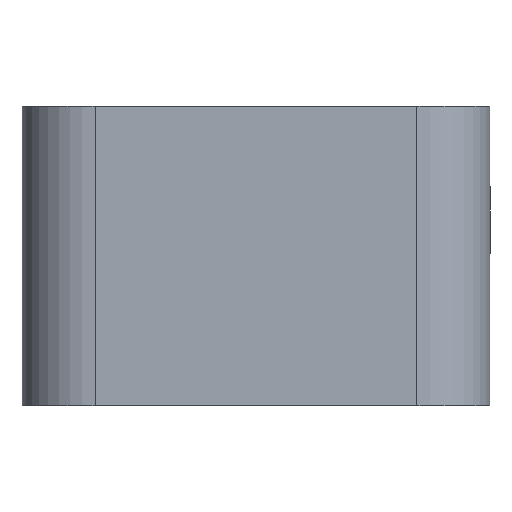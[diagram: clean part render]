
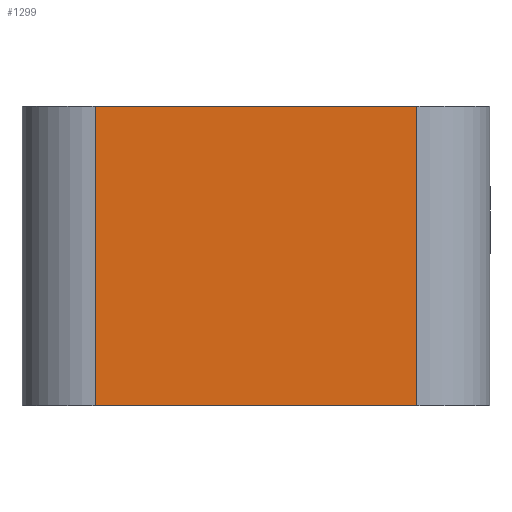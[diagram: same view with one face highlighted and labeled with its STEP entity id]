
A CAD part, front view. The second image highlights one B-rep face of the part: STEP entity #1299.
In plain terms, the highlighted planar face has unit normal (0, -1, 0).
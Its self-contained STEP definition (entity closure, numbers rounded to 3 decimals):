
#62 = CYLINDRICAL_SURFACE('',#63,5.);
#63 = AXIS2_PLACEMENT_3D('',#64,#65,#66);
#64 = CARTESIAN_POINT('',(-11.,-33.,-9.));
#65 = DIRECTION('',(0.,0.,-1.));
#66 = DIRECTION('',(-1.,0.,0.));
#90 = PLANE('',#91);
#91 = AXIS2_PLACEMENT_3D('',#92,#93,#94);
#92 = CARTESIAN_POINT('',(0.,0.,11.5));
#93 = DIRECTION('',(0.,0.,1.));
#94 = DIRECTION('',(1.,0.,-0.));
#144 = PLANE('',#145);
#145 = AXIS2_PLACEMENT_3D('',#146,#147,#148);
#146 = CARTESIAN_POINT('',(0.,0.,-9.));
#147 = DIRECTION('',(0.,0.,1.));
#148 = DIRECTION('',(1.,0.,-0.));
#159 = EDGE_CURVE('',#160,#162,#164,.T.);
#160 = VERTEX_POINT('',#161);
#161 = CARTESIAN_POINT('',(-11.,-38.,-9.));
#162 = VERTEX_POINT('',#163);
#163 = CARTESIAN_POINT('',(-11.,-38.,11.5));
#164 = SURFACE_CURVE('',#165,(#169,#176),.PCURVE_S1.);
#165 = LINE('',#166,#167);
#166 = CARTESIAN_POINT('',(-11.,-38.,-9.));
#167 = VECTOR('',#168,1.);
#168 = DIRECTION('',(0.,0.,1.));
#169 = PCURVE('',#62,#170);
#170 = DEFINITIONAL_REPRESENTATION('',(#171),#175);
#171 = LINE('',#172,#173);
#172 = CARTESIAN_POINT('',(4.712,0.));
#173 = VECTOR('',#174,1.);
#174 = DIRECTION('',(0.,-1.));
#175 = ( GEOMETRIC_REPRESENTATION_CONTEXT(2) 
PARAMETRIC_REPRESENTATION_CONTEXT() REPRESENTATION_CONTEXT('2D SPACE',''
  ) );
#176 = PCURVE('',#177,#182);
#177 = PLANE('',#178);
#178 = AXIS2_PLACEMENT_3D('',#179,#180,#181);
#179 = CARTESIAN_POINT('',(-11.,-38.,-9.));
#180 = DIRECTION('',(0.,1.,0.));
#181 = DIRECTION('',(1.,0.,0.));
#182 = DEFINITIONAL_REPRESENTATION('',(#183),#187);
#183 = LINE('',#184,#185);
#184 = CARTESIAN_POINT('',(0.,0.));
#185 = VECTOR('',#186,1.);
#186 = DIRECTION('',(0.,-1.));
#187 = ( GEOMETRIC_REPRESENTATION_CONTEXT(2) 
PARAMETRIC_REPRESENTATION_CONTEXT() REPRESENTATION_CONTEXT('2D SPACE',''
  ) );
#333 = EDGE_CURVE('',#160,#334,#336,.T.);
#334 = VERTEX_POINT('',#335);
#335 = CARTESIAN_POINT('',(11.,-38.,-9.));
#336 = SURFACE_CURVE('',#337,(#341,#348),.PCURVE_S1.);
#337 = LINE('',#338,#339);
#338 = CARTESIAN_POINT('',(0.,-38.,-9.));
#339 = VECTOR('',#340,1.);
#340 = DIRECTION('',(1.,0.,0.));
#341 = PCURVE('',#144,#342);
#342 = DEFINITIONAL_REPRESENTATION('',(#343),#347);
#343 = LINE('',#344,#345);
#344 = CARTESIAN_POINT('',(0.,-38.));
#345 = VECTOR('',#346,1.);
#346 = DIRECTION('',(1.,0.));
#347 = ( GEOMETRIC_REPRESENTATION_CONTEXT(2) 
PARAMETRIC_REPRESENTATION_CONTEXT() REPRESENTATION_CONTEXT('2D SPACE',''
  ) );
#348 = PCURVE('',#177,#349);
#349 = DEFINITIONAL_REPRESENTATION('',(#350),#354);
#350 = LINE('',#351,#352);
#351 = CARTESIAN_POINT('',(11.,0.));
#352 = VECTOR('',#353,1.);
#353 = DIRECTION('',(1.,0.));
#354 = ( GEOMETRIC_REPRESENTATION_CONTEXT(2) 
PARAMETRIC_REPRESENTATION_CONTEXT() REPRESENTATION_CONTEXT('2D SPACE',''
  ) );
#377 = CYLINDRICAL_SURFACE('',#378,5.);
#378 = AXIS2_PLACEMENT_3D('',#379,#380,#381);
#379 = CARTESIAN_POINT('',(11.,-33.,-9.));
#380 = DIRECTION('',(0.,0.,-1.));
#381 = DIRECTION('',(-1.,0.,0.));
#938 = EDGE_CURVE('',#162,#939,#941,.T.);
#939 = VERTEX_POINT('',#940);
#940 = CARTESIAN_POINT('',(11.,-38.,11.5));
#941 = SURFACE_CURVE('',#942,(#946,#953),.PCURVE_S1.);
#942 = LINE('',#943,#944);
#943 = CARTESIAN_POINT('',(0.,-38.,11.5));
#944 = VECTOR('',#945,1.);
#945 = DIRECTION('',(1.,0.,0.));
#946 = PCURVE('',#90,#947);
#947 = DEFINITIONAL_REPRESENTATION('',(#948),#952);
#948 = LINE('',#949,#950);
#949 = CARTESIAN_POINT('',(0.,-38.));
#950 = VECTOR('',#951,1.);
#951 = DIRECTION('',(1.,0.));
#952 = ( GEOMETRIC_REPRESENTATION_CONTEXT(2) 
PARAMETRIC_REPRESENTATION_CONTEXT() REPRESENTATION_CONTEXT('2D SPACE',''
  ) );
#953 = PCURVE('',#177,#954);
#954 = DEFINITIONAL_REPRESENTATION('',(#955),#959);
#955 = LINE('',#956,#957);
#956 = CARTESIAN_POINT('',(11.,-20.5));
#957 = VECTOR('',#958,1.);
#958 = DIRECTION('',(1.,0.));
#959 = ( GEOMETRIC_REPRESENTATION_CONTEXT(2) 
PARAMETRIC_REPRESENTATION_CONTEXT() REPRESENTATION_CONTEXT('2D SPACE',''
  ) );
#1299 = ADVANCED_FACE('',(#1300),#177,.F.);
#1300 = FACE_BOUND('',#1301,.F.);
#1301 = EDGE_LOOP('',(#1302,#1303,#1304,#1325));
#1302 = ORIENTED_EDGE('',*,*,#159,.T.);
#1303 = ORIENTED_EDGE('',*,*,#938,.T.);
#1304 = ORIENTED_EDGE('',*,*,#1305,.F.);
#1305 = EDGE_CURVE('',#334,#939,#1306,.T.);
#1306 = SURFACE_CURVE('',#1307,(#1311,#1318),.PCURVE_S1.);
#1307 = LINE('',#1308,#1309);
#1308 = CARTESIAN_POINT('',(11.,-38.,-9.));
#1309 = VECTOR('',#1310,1.);
#1310 = DIRECTION('',(0.,0.,1.));
#1311 = PCURVE('',#177,#1312);
#1312 = DEFINITIONAL_REPRESENTATION('',(#1313),#1317);
#1313 = LINE('',#1314,#1315);
#1314 = CARTESIAN_POINT('',(22.,0.));
#1315 = VECTOR('',#1316,1.);
#1316 = DIRECTION('',(0.,-1.));
#1317 = ( GEOMETRIC_REPRESENTATION_CONTEXT(2) 
PARAMETRIC_REPRESENTATION_CONTEXT() REPRESENTATION_CONTEXT('2D SPACE',''
  ) );
#1318 = PCURVE('',#377,#1319);
#1319 = DEFINITIONAL_REPRESENTATION('',(#1320),#1324);
#1320 = LINE('',#1321,#1322);
#1321 = CARTESIAN_POINT('',(4.712,0.));
#1322 = VECTOR('',#1323,1.);
#1323 = DIRECTION('',(0.,-1.));
#1324 = ( GEOMETRIC_REPRESENTATION_CONTEXT(2) 
PARAMETRIC_REPRESENTATION_CONTEXT() REPRESENTATION_CONTEXT('2D SPACE',''
  ) );
#1325 = ORIENTED_EDGE('',*,*,#333,.F.);
